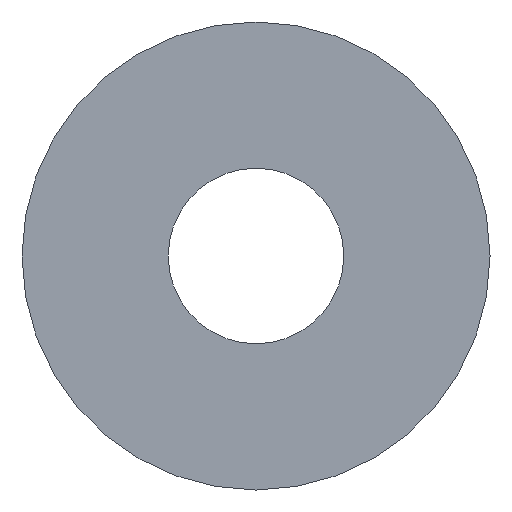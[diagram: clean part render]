
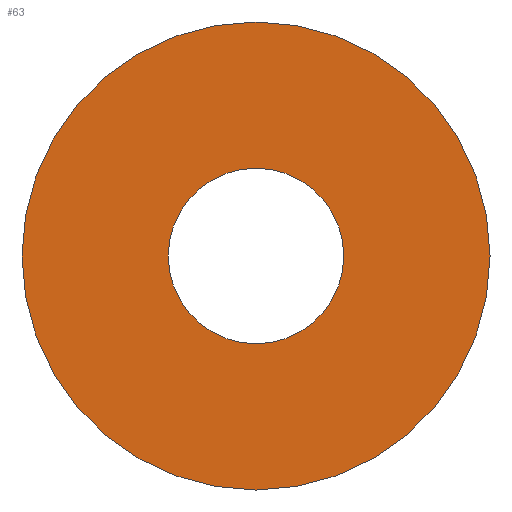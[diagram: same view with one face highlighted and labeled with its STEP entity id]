
A CAD part, front view. The second image highlights one B-rep face of the part: STEP entity #63.
In plain terms, the highlighted planar face has unit normal (0, -1, 0).
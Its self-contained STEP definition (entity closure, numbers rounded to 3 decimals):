
#15=FACE_BOUND('',#26,.T.);
#17=PLANE('',#94);
#21=FACE_OUTER_BOUND('',#25,.T.);
#25=EDGE_LOOP('',(#55));
#26=EDGE_LOOP('',(#56));
#34=CIRCLE('',#90,2.25);
#36=CIRCLE('',#93,6.);
#38=VERTEX_POINT('',#120);
#40=VERTEX_POINT('',#126);
#43=EDGE_CURVE('',#38,#38,#34,.T.);
#46=EDGE_CURVE('',#40,#40,#36,.T.);
#55=ORIENTED_EDGE('',*,*,#46,.T.);
#56=ORIENTED_EDGE('',*,*,#43,.T.);
#63=ADVANCED_FACE('',(#21,#15),#17,.F.);
#90=AXIS2_PLACEMENT_3D('',#122,#103,#104);
#93=AXIS2_PLACEMENT_3D('',#128,#110,#111);
#94=AXIS2_PLACEMENT_3D('',#129,#112,#113);
#103=DIRECTION('center_axis',(0.,1.,0.));
#104=DIRECTION('ref_axis',(1.,0.,0.));
#110=DIRECTION('center_axis',(0.,-1.,0.));
#111=DIRECTION('ref_axis',(1.,0.,0.));
#112=DIRECTION('center_axis',(0.,1.,0.));
#113=DIRECTION('ref_axis',(0.,0.,1.));
#120=CARTESIAN_POINT('',(-2.25,0.,0.));
#122=CARTESIAN_POINT('Origin',(0.,0.,0.));
#126=CARTESIAN_POINT('',(-6.,0.,0.));
#128=CARTESIAN_POINT('Origin',(0.,0.,0.));
#129=CARTESIAN_POINT('Origin',(0.,0.,0.));
